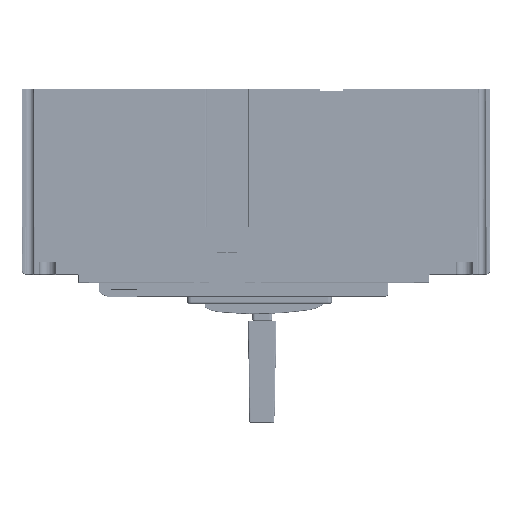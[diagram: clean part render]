
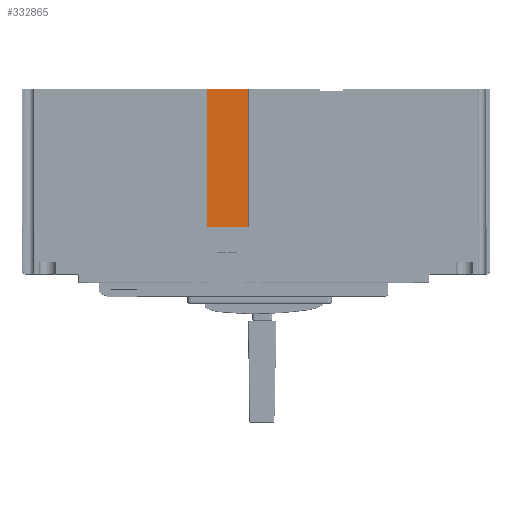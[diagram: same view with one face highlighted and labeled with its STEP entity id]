
A CAD part, front view. The second image highlights one B-rep face of the part: STEP entity #332865.
In plain terms, the highlighted planar face has unit normal (0, -1, 0) as drawn and (-1, 0, 0) by its records, which use the part's own axes.
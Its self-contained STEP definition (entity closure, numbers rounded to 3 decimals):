
#3039 = VERTEX_POINT ( 'NONE', #82065 ) ;
#35097 = EDGE_LOOP ( 'NONE', ( #362727, #351629, #361860, #187666, #428925, #256490 ) ) ;
#63736 = VECTOR ( 'NONE', #361264, 1000. ) ;
#69379 = VERTEX_POINT ( 'NONE', #362616 ) ;
#82065 = CARTESIAN_POINT ( 'NONE',  ( -197.5, 129.2, 0. ) ) ;
#94890 = LINE ( 'NONE', #228032, #63736 ) ;
#100817 = AXIS2_PLACEMENT_3D ( 'NONE', #163180, #390346, #296381 ) ;
#105712 = VECTOR ( 'NONE', #247988, 1000. ) ;
#109002 = DIRECTION ( 'NONE',  ( 0., -1., 0. ) ) ;
#111069 = CARTESIAN_POINT ( 'NONE',  ( -197.5, 151.5, 0. ) ) ;
#117344 = EDGE_CURVE ( 'NONE', #372241, #364035, #94890, .T. ) ;
#117852 = VECTOR ( 'NONE', #259592, 1000. ) ;
#119235 = CARTESIAN_POINT ( 'NONE',  ( -197.5, 129.2, 0. ) ) ;
#137848 = CARTESIAN_POINT ( 'NONE',  ( -197.5, 136.9, 0. ) ) ;
#146345 = EDGE_CURVE ( 'NONE', #69379, #364035, #326068, .T. ) ;
#160028 = VERTEX_POINT ( 'NONE', #111069 ) ;
#162154 = VECTOR ( 'NONE', #352359, 1000. ) ;
#163180 = CARTESIAN_POINT ( 'NONE',  ( -197.5, 127., 0. ) ) ;
#187666 = ORIENTED_EDGE ( 'NONE', *, *, #241418, .F. ) ;
#190974 = VERTEX_POINT ( 'NONE', #137848 ) ;
#191933 = EDGE_CURVE ( 'NONE', #69379, #160028, #245831, .T. ) ;
#228032 = CARTESIAN_POINT ( 'NONE',  ( -197.5, 129.2, -100. ) ) ;
#230824 = FACE_OUTER_BOUND ( 'NONE', #35097, .T. ) ;
#241418 = EDGE_CURVE ( 'NONE', #190974, #3039, #290192, .T. ) ;
#245831 = LINE ( 'NONE', #323750, #105712 ) ;
#246486 = EDGE_CURVE ( 'NONE', #3039, #372241, #285189, .T. ) ;
#247988 = DIRECTION ( 'NONE',  ( 0., -1., 0. ) ) ;
#251381 = CARTESIAN_POINT ( 'NONE',  ( -197.5, 159.2, -100. ) ) ;
#256490 = ORIENTED_EDGE ( 'NONE', *, *, #191933, .F. ) ;
#259592 = DIRECTION ( 'NONE',  ( 0., -1., 0. ) ) ;
#261459 = PLANE ( 'NONE',  #100817 ) ;
#274984 = LINE ( 'NONE', #408166, #389020 ) ;
#285189 = LINE ( 'NONE', #119235, #398923 ) ;
#290192 = LINE ( 'NONE', #357877, #117852 ) ;
#296381 = DIRECTION ( 'NONE',  ( 0., 1., 0. ) ) ;
#320325 = CARTESIAN_POINT ( 'NONE',  ( -197.5, 129.2, -100. ) ) ;
#323750 = CARTESIAN_POINT ( 'NONE',  ( -197.5, 159.2, 0. ) ) ;
#326068 = LINE ( 'NONE', #389421, #162154 ) ;
#332865 = ADVANCED_FACE ( 'NONE', ( #230824 ), #261459, .F. ) ;
#349160 = EDGE_CURVE ( 'NONE', #160028, #190974, #274984, .T. ) ;
#351629 = ORIENTED_EDGE ( 'NONE', *, *, #117344, .F. ) ;
#352359 = DIRECTION ( 'NONE',  ( 0., 0., -1. ) ) ;
#357877 = CARTESIAN_POINT ( 'NONE',  ( -197.5, 127., 0. ) ) ;
#361264 = DIRECTION ( 'NONE',  ( 0., 1., 0. ) ) ;
#361860 = ORIENTED_EDGE ( 'NONE', *, *, #246486, .F. ) ;
#362616 = CARTESIAN_POINT ( 'NONE',  ( -197.5, 159.2, 0. ) ) ;
#362727 = ORIENTED_EDGE ( 'NONE', *, *, #146345, .T. ) ;
#364035 = VERTEX_POINT ( 'NONE', #251381 ) ;
#372241 = VERTEX_POINT ( 'NONE', #320325 ) ;
#385616 = DIRECTION ( 'NONE',  ( 0., 0., -1. ) ) ;
#389020 = VECTOR ( 'NONE', #109002, 1000. ) ;
#389421 = CARTESIAN_POINT ( 'NONE',  ( -197.5, 159.2, 0. ) ) ;
#390346 = DIRECTION ( 'NONE',  ( 1., 0., 0. ) ) ;
#398923 = VECTOR ( 'NONE', #385616, 1000. ) ;
#408166 = CARTESIAN_POINT ( 'NONE',  ( -197.5, 159.2, 0. ) ) ;
#428925 = ORIENTED_EDGE ( 'NONE', *, *, #349160, .F. ) ;
